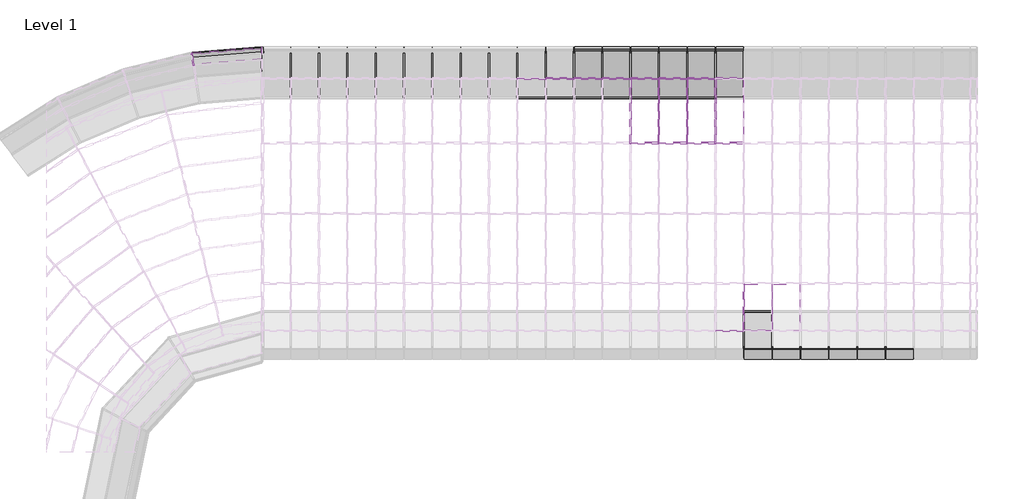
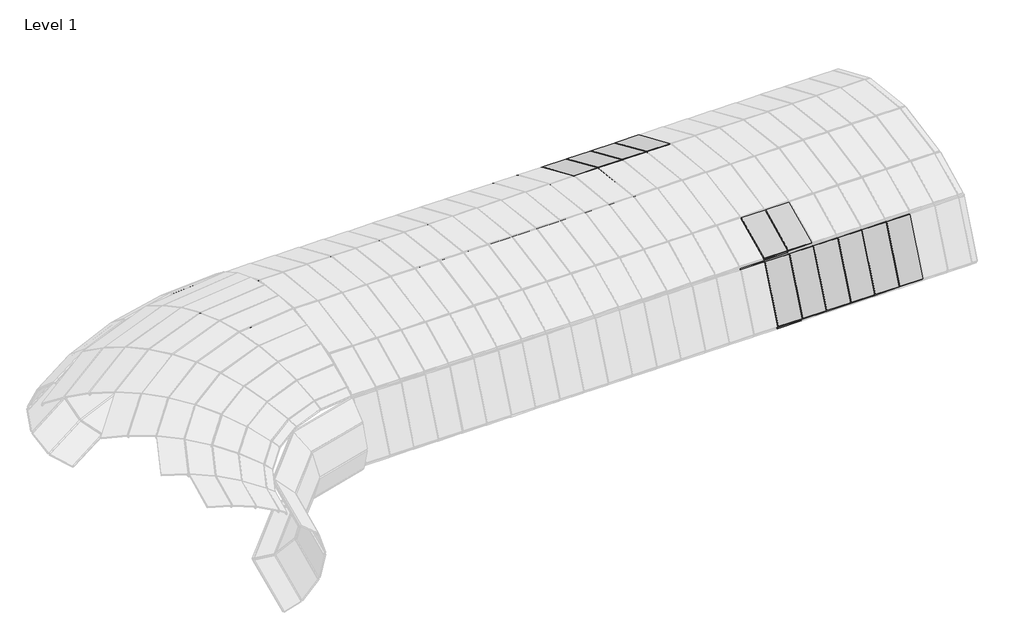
# One storey, part 20 of 23: 91 members, 27 plates.
"""IFC4 building model written with IfcOpenShell, lengths in millimetres."""

from ifc_helpers import new_model, si_unit, origin, place, context, project, spatial, transform, mapped, element, save
from components import member_391bee44, member_11ccf896, member_a479caf8, member_a09e3960, member_0f8f75f6, member_68981e21, member_3e1f1dd8, member_42213d33, member_14e241b9, member_67cfadff, member_9fdc8c74, system_panel_glazed_ce80fa85, system_panel_glazed_c7397732, system_panel_glazed_36155e08, system_panel_glazed_4484050c, system_panel_glazed_a8ce3bc7

model = new_model("IFC4")

# Units and contexts
model_context = context("Model", 3, world=origin())
ifc_project = project(units=[si_unit("LENGTHUNIT", "METRE", prefix="MILLI")], contexts=[model_context])

# Site, building, storey
site = spatial("IfcSite", under=ifc_project)
building = spatial("IfcBuilding", under=site)
storey = spatial("IfcBuildingStorey", under=building, Name="Level 1", Elevation=0.0)

# Members
placement = place(None, origin())
member_shape = member_391bee44(model_context)
element("IfcMember", 1, ObjectType="Rectangular Mullion : 1\" Square", at=placement, inside=storey, context=model_context, shape_type="MappedRepresentation", body=[
    mapped(member_shape, transform((-11434.107718, 8067.4639741, 1232.5089476), x_axis=(-0.9871948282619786, -0.15951918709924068, 0.0), y_axis=(-0.14578933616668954, 0.9022267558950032, 0.40587233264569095), z_axis=(-0.0647444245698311, 0.4006750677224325, -0.9139297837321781))),
])
member_2_shape = member_11ccf896(model_context)
element("IfcMember", 2, ObjectType="Rectangular Mullion : 1\" Square", at=placement, inside=storey, context=model_context, shape_type="MappedRepresentation", body=[
    mapped(member_2_shape, transform((-11421.4484397, 8068.4801793, 1232.5089476), x_axis=(0.01071900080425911, -0.13353091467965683, 0.9909866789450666), y_axis=(-0.07929494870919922, 0.9878091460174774, 0.1339604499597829), z_axis=(-0.9967935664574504, -0.08001616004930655, 0.0))),
])
member_3_shape = member_a479caf8(model_context)
element("IfcMember", 3, ObjectType="Rectangular Mullion : 1\" Square", at=placement, inside=storey, context=model_context, shape_type="MappedRepresentation", body=[
    mapped(member_3_shape, transform((-9912.9499814, 8098.3092895, 629.7792003), x_axis=(0.9981790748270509, 0.0454093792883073, -0.03970545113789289), y_axis=(-0.060320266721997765, 0.7514338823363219, -0.6570453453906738), z_axis=(0.0, 0.6582439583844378, 0.7528046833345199))),
])
member_4_shape = member_a09e3960(model_context)
element("IfcMember", 4, ObjectType="Rectangular Mullion : 1\" Square", at=placement, inside=storey, context=model_context, shape_type="MappedRepresentation", body=[
    mapped(member_4_shape, transform((-9912.9499814, 8189.5727086, 1232.5089476), x_axis=(0.9968650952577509, 0.07822835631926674, -0.011845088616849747), y_axis=(-0.07912004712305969, 0.9856303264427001, -0.14924100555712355), z_axis=(0.0, 0.14971033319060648, 0.9887299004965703))),
])
member_5_shape = member_0f8f75f6(model_context)
element("IfcMember", 5, ObjectType="Rectangular Mullion : 1\" Square", at=placement, inside=storey, context=model_context, shape_type="MappedRepresentation", body=[
    mapped(member_5_shape, transform((450.2500186, 2518.7804857, 14.1400027), x_axis=(0.9999999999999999, 0.0, 0.0), y_axis=(0.0, -0.5566930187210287, -0.8307182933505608), z_axis=(0.0, 0.8307182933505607, -0.5566930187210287))),
])
member_6_shape = member_68981e21(model_context)
element("IfcMember", 6, ObjectType="Rectangular Mullion : 1\" Square", at=placement, inside=storey, context=model_context, shape_type="MappedRepresentation", body=[
    mapped(member_6_shape, transform((450.2500186, 2539.8807303, 0.0), x_axis=(0.0, 0.8307182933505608, -0.5566930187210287), y_axis=(0.0, -0.5566930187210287, -0.8307182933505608), z_axis=(-1.0, 0.0, 0.0))),
])
element("IfcMember", 7, ObjectType="Rectangular Mullion : 1\" Square", at=placement, inside=storey, context=model_context, shape_type="MappedRepresentation", body=[
    mapped(member_6_shape, transform((-3207.3499814, 7543.2525753, 2085.6089632), x_axis=(0.0, 0.9167487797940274, -0.39946423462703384), y_axis=(0.0, 0.39946423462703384, 0.9167487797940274), z_axis=(1.0, 0.0, 0.0))),
])
element("IfcMember", 8, ObjectType="Rectangular Mullion : 1\" Square", at=placement, inside=storey, context=model_context, shape_type="MappedRepresentation", body=[
    mapped(member_6_shape, transform((-2597.7499814, 7543.2525753, 2085.6089632), x_axis=(0.0, 0.9167487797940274, -0.39946423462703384), y_axis=(0.0, 0.39946423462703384, 0.9167487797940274), z_axis=(1.0, 0.0, 0.0))),
])
element("IfcMember", 9, ObjectType="Rectangular Mullion : 1\" Square", at=placement, inside=storey, context=model_context, shape_type="MappedRepresentation", body=[
    mapped(member_6_shape, transform((-1988.1499814, 7543.2525753, 2085.6089632), x_axis=(0.0, 0.9167487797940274, -0.39946423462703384), y_axis=(0.0, 0.39946423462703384, 0.9167487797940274), z_axis=(1.0, 0.0, 0.0))),
])
element("IfcMember", 10, ObjectType="Rectangular Mullion : 1\" Square", at=placement, inside=storey, context=model_context, shape_type="MappedRepresentation", body=[
    mapped(member_6_shape, transform((-1378.5499814, 7543.2525753, 2085.6089632), x_axis=(0.0, 0.9167487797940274, -0.39946423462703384), y_axis=(0.0, 0.39946423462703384, 0.9167487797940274), z_axis=(1.0, 0.0, 0.0))),
])
element("IfcMember", 11, ObjectType="Rectangular Mullion : 1\" Square", at=placement, inside=storey, context=model_context, shape_type="MappedRepresentation", body=[
    mapped(member_6_shape, transform((-768.9499814, 7543.2525753, 2085.6089632), x_axis=(0.0, 0.9167487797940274, -0.39946423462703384), y_axis=(0.0, 0.39946423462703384, 0.9167487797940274), z_axis=(1.0, 0.0, 0.0))),
])
element("IfcMember", 12, ObjectType="Rectangular Mullion : 1\" Square", at=placement, inside=storey, context=model_context, shape_type="MappedRepresentation", body=[
    mapped(member_6_shape, transform((-159.3499814, 7543.2525753, 2085.6089632), x_axis=(0.0, 0.9167487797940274, -0.39946423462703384), y_axis=(0.0, 0.39946423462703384, 0.9167487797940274), z_axis=(1.0, 0.0, 0.0))),
])
element("IfcMember", 13, ObjectType="Rectangular Mullion : 1\" Square", at=placement, inside=storey, context=model_context, shape_type="MappedRepresentation", body=[
    mapped(member_6_shape, transform((450.2500186, 2108.5088854, 2085.6089632), x_axis=(0.0, -0.9009025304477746, -0.4340214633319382), y_axis=(0.0, -0.4340214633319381, 0.9009025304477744), z_axis=(-1.0, 0.0, 0.0))),
])
element("IfcMember", 14, ObjectType="Rectangular Mullion : 1\" Square", at=placement, inside=storey, context=model_context, shape_type="MappedRepresentation", body=[
    mapped(member_6_shape, transform((-3816.9499814, 7543.2525753, 2085.6089632), x_axis=(0.0, 0.9167487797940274, -0.3994642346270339), y_axis=(0.0, 0.3994642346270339, 0.9167487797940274), z_axis=(1.0, 0.0, 0.0))),
])
element("IfcMember", 15, ObjectType="Rectangular Mullion : 1\" Square", at=placement, inside=storey, context=model_context, shape_type="MappedRepresentation", body=[
    mapped(member_6_shape, transform((-1378.5499814, 7111.8807303, 0.0), x_axis=(0.0, -0.713412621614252, -0.7007441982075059), y_axis=(0.0, 0.7007441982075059, -0.713412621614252), z_axis=(1.0, 0.0, 0.0))),
])
element("IfcMember", 16, ObjectType="Rectangular Mullion : 1\" Square", at=placement, inside=storey, context=model_context, shape_type="MappedRepresentation", body=[
    mapped(member_6_shape, transform((-768.9499814, 7111.8807303, 0.0), x_axis=(0.0, -0.713412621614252, -0.7007441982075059), y_axis=(0.0, 0.7007441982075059, -0.713412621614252), z_axis=(1.0, 0.0, 0.0))),
])
element("IfcMember", 17, ObjectType="Rectangular Mullion : 1\" Square", at=placement, inside=storey, context=model_context, shape_type="MappedRepresentation", body=[
    mapped(member_6_shape, transform((-159.3499814, 7111.8807303, 0.0), x_axis=(0.0, -0.713412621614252, -0.7007441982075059), y_axis=(0.0, 0.7007441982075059, -0.713412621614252), z_axis=(1.0, 0.0, 0.0))),
])
element("IfcMember", 18, ObjectType="Rectangular Mullion : 1\" Square", at=placement, inside=storey, context=model_context, shape_type="MappedRepresentation", body=[
    mapped(member_6_shape, transform((-3816.9499814, 7111.8807303, 0.0), x_axis=(0.0, -0.7134126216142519, -0.700744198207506), y_axis=(0.0, 0.700744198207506, -0.7134126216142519), z_axis=(1.0, 0.0, 0.0))),
])
element("IfcMember", 19, ObjectType="Rectangular Mullion : 1\" Square", at=placement, inside=storey, context=model_context, shape_type="MappedRepresentation", body=[
    mapped(member_6_shape, transform((-3207.3499814, 7111.8807303, 0.0), x_axis=(0.0, -0.713412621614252, -0.7007441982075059), y_axis=(0.0, 0.7007441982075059, -0.713412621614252), z_axis=(1.0, 0.0, 0.0))),
])
element("IfcMember", 20, ObjectType="Rectangular Mullion : 1\" Square", at=placement, inside=storey, context=model_context, shape_type="MappedRepresentation", body=[
    mapped(member_6_shape, transform((-2597.7499814, 7111.8807303, 0.0), x_axis=(0.0, -0.713412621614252, -0.7007441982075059), y_axis=(0.0, 0.7007441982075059, -0.713412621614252), z_axis=(1.0, 0.0, 0.0))),
])
element("IfcMember", 21, ObjectType="Rectangular Mullion : 1\" Square", at=placement, inside=storey, context=model_context, shape_type="MappedRepresentation", body=[
    mapped(member_6_shape, transform((-1988.1499814, 7111.8807303, 0.0), x_axis=(0.0, -0.713412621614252, -0.7007441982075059), y_axis=(0.0, 0.7007441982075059, -0.713412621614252), z_axis=(1.0, 0.0, 0.0))),
])
member_7_shape = member_3e1f1dd8(model_context)
element("IfcMember", 22, ObjectType="Rectangular Mullion : 1\" Square", at=placement, inside=storey, context=model_context, shape_type="MappedRepresentation", body=[
    mapped(member_7_shape, transform((450.2500186, 1534.1192339, 673.9955146), x_axis=(0.0, 0.38018576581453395, -0.9249101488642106), y_axis=(0.0, -0.9249101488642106, -0.38018576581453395), z_axis=(-1.0, 0.0, 0.0))),
])
element("IfcMember", 23, ObjectType="Rectangular Mullion : 1\" Square", at=placement, inside=storey, context=model_context, shape_type="MappedRepresentation", body=[
    mapped(member_7_shape, transform((1059.8500186, 1534.1192339, 673.9955146), x_axis=(0.0, 0.38018576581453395, -0.9249101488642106), y_axis=(0.0, -0.9249101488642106, -0.38018576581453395), z_axis=(-1.0, 0.0, 0.0))),
])
element("IfcMember", 24, ObjectType="Rectangular Mullion : 1\" Square", at=placement, inside=storey, context=model_context, shape_type="MappedRepresentation", body=[
    mapped(member_7_shape, transform((1669.4500186, 1534.1192339, 673.9955146), x_axis=(0.0, 0.38018576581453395, -0.9249101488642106), y_axis=(0.0, -0.9249101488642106, -0.38018576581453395), z_axis=(-1.0, 0.0, 0.0))),
])
element("IfcMember", 25, ObjectType="Rectangular Mullion : 1\" Square", at=placement, inside=storey, context=model_context, shape_type="MappedRepresentation", body=[
    mapped(member_7_shape, transform((2279.0500186, 1534.1192339, 673.9955146), x_axis=(0.0, 0.38018576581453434, -0.9249101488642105), y_axis=(0.0, -0.9249101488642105, -0.38018576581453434), z_axis=(-1.0, 0.0, 0.0))),
])
element("IfcMember", 26, ObjectType="Rectangular Mullion : 1\" Square", at=placement, inside=storey, context=model_context, shape_type="MappedRepresentation", body=[
    mapped(member_7_shape, transform((2888.6500186, 1534.1192339, 673.9955146), x_axis=(0.0, 0.38018576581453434, -0.9249101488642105), y_axis=(0.0, -0.9249101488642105, -0.38018576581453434), z_axis=(-1.0, 0.0, 0.0))),
])
element("IfcMember", 27, ObjectType="Rectangular Mullion : 1\" Square", at=placement, inside=storey, context=model_context, shape_type="MappedRepresentation", body=[
    mapped(member_7_shape, transform((3498.2500186, 1534.1192339, 673.9955146), x_axis=(0.0, 0.38018576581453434, -0.9249101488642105), y_axis=(0.0, -0.9249101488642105, -0.38018576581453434), z_axis=(-1.0, 0.0, 0.0))),
])
member_8_shape = member_42213d33(model_context)
element("IfcMember", 28, ObjectType="Rectangular Mullion : 1\" Square", at=placement, inside=storey, context=model_context, shape_type="MappedRepresentation", body=[
    mapped(member_8_shape, transform((450.2500186, 1538.9058143, 685.75896), x_axis=(0.9999999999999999, 0.0, 0.0), y_axis=(0.0, -0.9262555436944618, 0.37689609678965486), z_axis=(0.0, -0.3768960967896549, -0.926255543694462))),
])
element("IfcMember", 29, ObjectType="Rectangular Mullion : 1\" Square", at=placement, inside=storey, context=model_context, shape_type="MappedRepresentation", body=[
    mapped(member_8_shape, transform((1059.8500186, 1538.9058143, 685.75896), x_axis=(0.9999999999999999, 0.0, 0.0), y_axis=(0.0, -0.9262555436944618, 0.37689609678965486), z_axis=(0.0, -0.3768960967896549, -0.926255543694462))),
])
element("IfcMember", 30, ObjectType="Rectangular Mullion : 1\" Square", at=placement, inside=storey, context=model_context, shape_type="MappedRepresentation", body=[
    mapped(member_8_shape, transform((1669.4500186, 1538.9058143, 685.75896), x_axis=(0.9999999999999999, 0.0, 0.0), y_axis=(0.0, -0.9262555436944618, 0.37689609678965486), z_axis=(0.0, -0.3768960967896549, -0.926255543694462))),
])
element("IfcMember", 31, ObjectType="Rectangular Mullion : 1\" Square", at=placement, inside=storey, context=model_context, shape_type="MappedRepresentation", body=[
    mapped(member_8_shape, transform((2279.0500186, 1538.9058143, 685.75896), x_axis=(1.0, 0.0, 0.0), y_axis=(0.0, -0.9262555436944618, 0.37689609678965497), z_axis=(0.0, -0.37689609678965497, -0.9262555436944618))),
])
element("IfcMember", 32, ObjectType="Rectangular Mullion : 1\" Square", at=placement, inside=storey, context=model_context, shape_type="MappedRepresentation", body=[
    mapped(member_8_shape, transform((2888.6500186, 1538.9058143, 685.75896), x_axis=(1.0, 0.0, 0.0), y_axis=(0.0, -0.9262555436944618, 0.37689609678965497), z_axis=(0.0, -0.37689609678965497, -0.9262555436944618))),
])
element("IfcMember", 33, ObjectType="Rectangular Mullion : 1\" Square", at=placement, inside=storey, context=model_context, shape_type="MappedRepresentation", body=[
    mapped(member_8_shape, transform((3498.2500186, 1538.9058143, 685.75896), x_axis=(1.0, 0.0, 0.0), y_axis=(0.0, -0.9262555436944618, 0.37689609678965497), z_axis=(0.0, -0.37689609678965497, -0.9262555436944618))),
])
element("IfcMember", 34, ObjectType="Rectangular Mullion : 1\" Square", at=placement, inside=storey, context=model_context, shape_type="MappedRepresentation", body=[
    mapped(member_6_shape, transform((450.2500186, 2108.5088854, 2085.6089632), x_axis=(0.0, 0.37689609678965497, 0.9262555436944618), y_axis=(0.0, -0.9262555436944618, 0.37689609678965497), z_axis=(1.0, 0.0, 0.0))),
])
element("IfcMember", 35, ObjectType="Rectangular Mullion : 1\" Square", at=placement, inside=storey, context=model_context, shape_type="MappedRepresentation", body=[
    mapped(member_6_shape, transform((-3816.9499814, 7543.2525753, 2085.6089632), x_axis=(0.0, -0.5417212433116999, 0.8405582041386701), y_axis=(0.0, 0.8405582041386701, 0.5417212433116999), z_axis=(-1.0, 0.0, 0.0))),
])
element("IfcMember", 36, ObjectType="Rectangular Mullion : 1\" Square", at=placement, inside=storey, context=model_context, shape_type="MappedRepresentation", body=[
    mapped(member_6_shape, transform((-3207.3499814, 7543.2525753, 2085.6089632), x_axis=(0.0, -0.5417212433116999, 0.8405582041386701), y_axis=(0.0, 0.8405582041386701, 0.5417212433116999), z_axis=(-1.0, 0.0, 0.0))),
])
element("IfcMember", 37, ObjectType="Rectangular Mullion : 1\" Square", at=placement, inside=storey, context=model_context, shape_type="MappedRepresentation", body=[
    mapped(member_6_shape, transform((-2597.7499814, 7543.2525753, 2085.6089632), x_axis=(0.0, -0.5417212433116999, 0.8405582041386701), y_axis=(0.0, 0.8405582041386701, 0.5417212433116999), z_axis=(-1.0, 0.0, 0.0))),
])
element("IfcMember", 38, ObjectType="Rectangular Mullion : 1\" Square", at=placement, inside=storey, context=model_context, shape_type="MappedRepresentation", body=[
    mapped(member_6_shape, transform((-1988.1499814, 7543.2525753, 2085.6089632), x_axis=(0.0, -0.5417212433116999, 0.8405582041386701), y_axis=(0.0, 0.8405582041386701, 0.5417212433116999), z_axis=(-1.0, 0.0, 0.0))),
])
element("IfcMember", 39, ObjectType="Rectangular Mullion : 1\" Square", at=placement, inside=storey, context=model_context, shape_type="MappedRepresentation", body=[
    mapped(member_6_shape, transform((-1378.5499814, 7543.2525753, 2085.6089632), x_axis=(0.0, -0.5417212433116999, 0.8405582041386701), y_axis=(0.0, 0.8405582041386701, 0.5417212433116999), z_axis=(-1.0, 0.0, 0.0))),
])
element("IfcMember", 40, ObjectType="Rectangular Mullion : 1\" Square", at=placement, inside=storey, context=model_context, shape_type="MappedRepresentation", body=[
    mapped(member_6_shape, transform((-768.9499814, 7543.2525753, 2085.6089632), x_axis=(0.0, -0.5417212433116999, 0.8405582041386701), y_axis=(0.0, 0.8405582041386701, 0.5417212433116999), z_axis=(-1.0, 0.0, 0.0))),
])
element("IfcMember", 41, ObjectType="Rectangular Mullion : 1\" Square", at=placement, inside=storey, context=model_context, shape_type="MappedRepresentation", body=[
    mapped(member_6_shape, transform((-159.3499814, 7543.2525753, 2085.6089632), x_axis=(0.0, -0.5417212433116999, 0.8405582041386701), y_axis=(0.0, 0.8405582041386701, 0.5417212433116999), z_axis=(-1.0, 0.0, 0.0))),
])
element("IfcMember", 42, ObjectType="Rectangular Mullion : 1\" Square", at=placement, inside=storey, context=model_context, shape_type="MappedRepresentation", body=[
    mapped(member_7_shape, transform((-1988.1499814, 6146.1274349, 2694.3924567), x_axis=(0.0, -0.9660596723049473, 0.25831900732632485), y_axis=(0.0, 0.25831900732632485, 0.9660596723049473), z_axis=(-1.0, 0.0, 0.0))),
])
element("IfcMember", 43, ObjectType="Rectangular Mullion : 1\" Square", at=placement, inside=storey, context=model_context, shape_type="MappedRepresentation", body=[
    mapped(member_7_shape, transform((-1378.5499814, 6146.1274349, 2694.3924567), x_axis=(0.0, -0.9660596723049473, 0.25831900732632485), y_axis=(0.0, 0.25831900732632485, 0.9660596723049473), z_axis=(-1.0, 0.0, 0.0))),
])
element("IfcMember", 44, ObjectType="Rectangular Mullion : 1\" Square", at=placement, inside=storey, context=model_context, shape_type="MappedRepresentation", body=[
    mapped(member_7_shape, transform((-768.9499814, 6146.1274349, 2694.3924567), x_axis=(0.0, -0.9660596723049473, 0.25831900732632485), y_axis=(0.0, 0.25831900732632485, 0.9660596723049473), z_axis=(-1.0, 0.0, 0.0))),
])
element("IfcMember", 45, ObjectType="Rectangular Mullion : 1\" Square", at=placement, inside=storey, context=model_context, shape_type="MappedRepresentation", body=[
    mapped(member_7_shape, transform((-159.3499814, 6146.1274349, 2694.3924567), x_axis=(0.0, -0.9660596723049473, 0.25831900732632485), y_axis=(0.0, 0.25831900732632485, 0.9660596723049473), z_axis=(-1.0, 0.0, 0.0))),
])
element("IfcMember", 46, ObjectType="Rectangular Mullion : 1\" Square", at=placement, inside=storey, context=model_context, shape_type="MappedRepresentation", body=[
    mapped(member_7_shape, transform((-9303.3499814, 8199.1215657, 1067.9341581), x_axis=(0.0, 0.017915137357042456, 0.9998395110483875), y_axis=(0.0, 0.9998395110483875, -0.017915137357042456), z_axis=(-1.0, 0.0, 0.0))),
])
element("IfcMember", 47, ObjectType="Rectangular Mullion : 1\" Square", at=placement, inside=storey, context=model_context, shape_type="MappedRepresentation", body=[
    mapped(member_7_shape, transform((-8693.7499814, 8199.1215657, 1067.9341581), x_axis=(0.0, 0.017915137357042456, 0.9998395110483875), y_axis=(0.0, 0.9998395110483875, -0.017915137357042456), z_axis=(-1.0, 0.0, 0.0))),
])
element("IfcMember", 48, ObjectType="Rectangular Mullion : 1\" Square", at=placement, inside=storey, context=model_context, shape_type="MappedRepresentation", body=[
    mapped(member_7_shape, transform((-8084.1499814, 8199.1215657, 1067.9341581), x_axis=(0.0, 0.017915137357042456, 0.9998395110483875), y_axis=(0.0, 0.9998395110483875, -0.017915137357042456), z_axis=(-1.0, 0.0, 0.0))),
])
element("IfcMember", 49, ObjectType="Rectangular Mullion : 1\" Square", at=placement, inside=storey, context=model_context, shape_type="MappedRepresentation", body=[
    mapped(member_7_shape, transform((-7474.5499814, 8199.1215657, 1067.9341581), x_axis=(0.0, 0.017915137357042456, 0.9998395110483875), y_axis=(0.0, 0.9998395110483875, -0.017915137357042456), z_axis=(-1.0, 0.0, 0.0))),
])
element("IfcMember", 50, ObjectType="Rectangular Mullion : 1\" Square", at=placement, inside=storey, context=model_context, shape_type="MappedRepresentation", body=[
    mapped(member_7_shape, transform((-6864.9499814, 8199.1215657, 1067.9341581), x_axis=(0.0, 0.017915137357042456, 0.9998395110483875), y_axis=(0.0, 0.9998395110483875, -0.017915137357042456), z_axis=(-1.0, 0.0, 0.0))),
])
element("IfcMember", 51, ObjectType="Rectangular Mullion : 1\" Square", at=placement, inside=storey, context=model_context, shape_type="MappedRepresentation", body=[
    mapped(member_7_shape, transform((-6255.3499814, 8199.1215657, 1067.9341581), x_axis=(0.0, 0.017915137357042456, 0.9998395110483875), y_axis=(0.0, 0.9998395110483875, -0.017915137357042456), z_axis=(-1.0, 0.0, 0.0))),
])
element("IfcMember", 52, ObjectType="Rectangular Mullion : 1\" Square", at=placement, inside=storey, context=model_context, shape_type="MappedRepresentation", body=[
    mapped(member_7_shape, transform((-5645.7499814, 8199.1215657, 1067.9341581), x_axis=(0.0, 0.017915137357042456, 0.9998395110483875), y_axis=(0.0, 0.9998395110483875, -0.017915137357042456), z_axis=(-1.0, 0.0, 0.0))),
])
element("IfcMember", 53, ObjectType="Rectangular Mullion : 1\" Square", at=placement, inside=storey, context=model_context, shape_type="MappedRepresentation", body=[
    mapped(member_7_shape, transform((-5036.1499814, 8199.1215657, 1067.9341581), x_axis=(0.0, 0.017915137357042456, 0.9998395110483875), y_axis=(0.0, 0.9998395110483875, -0.017915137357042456), z_axis=(-1.0, 0.0, 0.0))),
])
element("IfcMember", 54, ObjectType="Rectangular Mullion : 1\" Square", at=placement, inside=storey, context=model_context, shape_type="MappedRepresentation", body=[
    mapped(member_7_shape, transform((-4426.5499814, 8199.1215657, 1067.9341581), x_axis=(0.0, 0.017915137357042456, 0.9998395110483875), y_axis=(0.0, 0.9998395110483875, -0.017915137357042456), z_axis=(-1.0, 0.0, 0.0))),
])
element("IfcMember", 55, ObjectType="Rectangular Mullion : 1\" Square", at=placement, inside=storey, context=model_context, shape_type="MappedRepresentation", body=[
    mapped(member_7_shape, transform((-3816.9499814, 8199.1215657, 1067.9341581), x_axis=(0.0, 0.017915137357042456, 0.9998395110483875), y_axis=(0.0, 0.9998395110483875, -0.017915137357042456), z_axis=(-1.0, 0.0, 0.0))),
])
element("IfcMember", 56, ObjectType="Rectangular Mullion : 1\" Square", at=placement, inside=storey, context=model_context, shape_type="MappedRepresentation", body=[
    mapped(member_7_shape, transform((-3207.3499814, 8199.1215657, 1067.9341581), x_axis=(0.0, 0.017915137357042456, 0.9998395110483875), y_axis=(0.0, 0.9998395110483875, -0.017915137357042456), z_axis=(-1.0, 0.0, 0.0))),
])
element("IfcMember", 57, ObjectType="Rectangular Mullion : 1\" Square", at=placement, inside=storey, context=model_context, shape_type="MappedRepresentation", body=[
    mapped(member_7_shape, transform((-2597.7499814, 8199.1215657, 1067.9341581), x_axis=(0.0, 0.017915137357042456, 0.9998395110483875), y_axis=(0.0, 0.9998395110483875, -0.017915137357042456), z_axis=(-1.0, 0.0, 0.0))),
])
element("IfcMember", 58, ObjectType="Rectangular Mullion : 1\" Square", at=placement, inside=storey, context=model_context, shape_type="MappedRepresentation", body=[
    mapped(member_7_shape, transform((-1988.1499814, 8199.1215657, 1067.9341581), x_axis=(0.0, 0.017915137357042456, 0.9998395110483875), y_axis=(0.0, 0.9998395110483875, -0.017915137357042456), z_axis=(-1.0, 0.0, 0.0))),
])
element("IfcMember", 59, ObjectType="Rectangular Mullion : 1\" Square", at=placement, inside=storey, context=model_context, shape_type="MappedRepresentation", body=[
    mapped(member_7_shape, transform((-1378.5499814, 8199.1215657, 1067.9341581), x_axis=(0.0, 0.017915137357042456, 0.9998395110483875), y_axis=(0.0, 0.9998395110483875, -0.017915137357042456), z_axis=(-1.0, 0.0, 0.0))),
])
element("IfcMember", 60, ObjectType="Rectangular Mullion : 1\" Square", at=placement, inside=storey, context=model_context, shape_type="MappedRepresentation", body=[
    mapped(member_7_shape, transform((-768.9499814, 8199.1215657, 1067.9341581), x_axis=(0.0, 0.017915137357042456, 0.9998395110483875), y_axis=(0.0, 0.9998395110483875, -0.017915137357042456), z_axis=(-1.0, 0.0, 0.0))),
])
element("IfcMember", 61, ObjectType="Rectangular Mullion : 1\" Square", at=placement, inside=storey, context=model_context, shape_type="MappedRepresentation", body=[
    mapped(member_7_shape, transform((-159.3499814, 8199.1215657, 1067.9341581), x_axis=(0.0, 0.017915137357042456, 0.9998395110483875), y_axis=(0.0, 0.9998395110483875, -0.017915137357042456), z_axis=(-1.0, 0.0, 0.0))),
])
member_9_shape = member_14e241b9(model_context)
element("IfcMember", 62, ObjectType="Rectangular Mullion : 1\" Square", at=placement, inside=storey, context=model_context, shape_type="MappedRepresentation", body=[
    mapped(member_9_shape, transform((450.2500186, 2131.3918096, 2096.6331083), x_axis=(1.0, 0.0, 0.0), y_axis=(0.0, -0.4340214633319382, 0.9009025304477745), z_axis=(0.0, -0.9009025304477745, -0.4340214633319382))),
])
member_10_shape = member_67cfadff(model_context)
element("IfcMember", 63, ObjectType="Rectangular Mullion : 1\" Square", at=placement, inside=storey, context=model_context, shape_type="MappedRepresentation", body=[
    mapped(member_10_shape, transform((-1988.1499814, 6157.7701444, 2689.3192609), x_axis=(0.9999999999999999, 0.0, 0.0), y_axis=(0.0, 0.39946423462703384, 0.9167487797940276), z_axis=(0.0, -0.9167487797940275, 0.3994642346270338))),
])
element("IfcMember", 64, ObjectType="Rectangular Mullion : 1\" Square", at=placement, inside=storey, context=model_context, shape_type="MappedRepresentation", body=[
    mapped(member_10_shape, transform((-1378.5499814, 6157.7701444, 2689.3192609), x_axis=(0.9999999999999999, 0.0, 0.0), y_axis=(0.0, 0.39946423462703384, 0.9167487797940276), z_axis=(0.0, -0.9167487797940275, 0.3994642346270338))),
])
element("IfcMember", 65, ObjectType="Rectangular Mullion : 1\" Square", at=placement, inside=storey, context=model_context, shape_type="MappedRepresentation", body=[
    mapped(member_10_shape, transform((-768.9499814, 6157.7701444, 2689.3192609), x_axis=(0.9999999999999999, 0.0, 0.0), y_axis=(0.0, 0.39946423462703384, 0.9167487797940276), z_axis=(0.0, -0.9167487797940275, 0.3994642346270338))),
])
element("IfcMember", 66, ObjectType="Rectangular Mullion : 1\" Square", at=placement, inside=storey, context=model_context, shape_type="MappedRepresentation", body=[
    mapped(member_10_shape, transform((-159.3499814, 6157.7701444, 2689.3192609), x_axis=(0.9999999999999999, 0.0, 0.0), y_axis=(0.0, 0.39946423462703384, 0.9167487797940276), z_axis=(0.0, -0.9167487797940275, 0.3994642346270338))),
])
element("IfcMember", 67, ObjectType="Rectangular Mullion : 1\" Square", at=placement, inside=storey, context=model_context, shape_type="MappedRepresentation", body=[
    mapped(member_7_shape, transform((-9912.9499814, 8199.1215657, 1067.9341581), x_axis=(0.0, 0.017915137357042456, 0.9998395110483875), y_axis=(0.0, 0.9998395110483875, -0.017915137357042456), z_axis=(-1.0, 0.0, 0.0))),
])
element("IfcMember", 68, ObjectType="Rectangular Mullion : 1\" Square", at=placement, inside=storey, context=model_context, shape_type="MappedRepresentation", body=[
    mapped(member_8_shape, transform((-3207.3499814, 8190.0612254, 1059.0347068), x_axis=(1.0, 0.0, 0.0), y_axis=(0.0, 0.7007441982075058, -0.713412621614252), z_axis=(0.0, 0.713412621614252, 0.7007441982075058))),
])
element("IfcMember", 69, ObjectType="Rectangular Mullion : 1\" Square", at=placement, inside=storey, context=model_context, shape_type="MappedRepresentation", body=[
    mapped(member_8_shape, transform((-2597.7499814, 8190.0612254, 1059.0347068), x_axis=(1.0, 0.0, 0.0), y_axis=(0.0, 0.7007441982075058, -0.713412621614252), z_axis=(0.0, 0.713412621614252, 0.7007441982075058))),
])
element("IfcMember", 70, ObjectType="Rectangular Mullion : 1\" Square", at=placement, inside=storey, context=model_context, shape_type="MappedRepresentation", body=[
    mapped(member_8_shape, transform((-1988.1499814, 8190.0612254, 1059.0347068), x_axis=(1.0, 0.0, 0.0), y_axis=(0.0, 0.7007441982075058, -0.713412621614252), z_axis=(0.0, 0.713412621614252, 0.7007441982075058))),
])
element("IfcMember", 71, ObjectType="Rectangular Mullion : 1\" Square", at=placement, inside=storey, context=model_context, shape_type="MappedRepresentation", body=[
    mapped(member_8_shape, transform((-1378.5499814, 8190.0612254, 1059.0347068), x_axis=(1.0, 0.0, 0.0), y_axis=(0.0, 0.7007441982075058, -0.713412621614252), z_axis=(0.0, 0.713412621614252, 0.7007441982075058))),
])
element("IfcMember", 72, ObjectType="Rectangular Mullion : 1\" Square", at=placement, inside=storey, context=model_context, shape_type="MappedRepresentation", body=[
    mapped(member_8_shape, transform((-768.9499814, 8190.0612254, 1059.0347068), x_axis=(1.0, 0.0, 0.0), y_axis=(0.0, 0.7007441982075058, -0.713412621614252), z_axis=(0.0, 0.713412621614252, 0.7007441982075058))),
])
element("IfcMember", 73, ObjectType="Rectangular Mullion : 1\" Square", at=placement, inside=storey, context=model_context, shape_type="MappedRepresentation", body=[
    mapped(member_8_shape, transform((-159.3499814, 8190.0612254, 1059.0347068), x_axis=(1.0, 0.0, 0.0), y_axis=(0.0, 0.7007441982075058, -0.713412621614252), z_axis=(0.0, 0.713412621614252, 0.7007441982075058))),
])
element("IfcMember", 74, ObjectType="Rectangular Mullion : 1\" Square", at=placement, inside=storey, context=model_context, shape_type="MappedRepresentation", body=[
    mapped(member_8_shape, transform((-6255.3499814, 8190.0612254, 1059.0347068), x_axis=(1.0, 0.0, 0.0), y_axis=(0.0, 0.7007441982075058, -0.713412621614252), z_axis=(0.0, 0.713412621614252, 0.7007441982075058))),
])
element("IfcMember", 75, ObjectType="Rectangular Mullion : 1\" Square", at=placement, inside=storey, context=model_context, shape_type="MappedRepresentation", body=[
    mapped(member_8_shape, transform((-6864.9499814, 8190.0612254, 1059.0347068), x_axis=(1.0, 0.0, 0.0), y_axis=(0.0, 0.7007441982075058, -0.713412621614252), z_axis=(0.0, 0.713412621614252, 0.7007441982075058))),
])
element("IfcMember", 76, ObjectType="Rectangular Mullion : 1\" Square", at=placement, inside=storey, context=model_context, shape_type="MappedRepresentation", body=[
    mapped(member_8_shape, transform((-7474.5499814, 8190.0612254, 1059.0347068), x_axis=(1.0, 0.0, 0.0), y_axis=(0.0, 0.7007441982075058, -0.713412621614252), z_axis=(0.0, 0.713412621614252, 0.7007441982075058))),
])
element("IfcMember", 77, ObjectType="Rectangular Mullion : 1\" Square", at=placement, inside=storey, context=model_context, shape_type="MappedRepresentation", body=[
    mapped(member_8_shape, transform((-8084.1499814, 8190.0612254, 1059.0347068), x_axis=(1.0, 0.0, 0.0), y_axis=(0.0, 0.7007441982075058, -0.713412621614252), z_axis=(0.0, 0.713412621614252, 0.7007441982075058))),
])
element("IfcMember", 78, ObjectType="Rectangular Mullion : 1\" Square", at=placement, inside=storey, context=model_context, shape_type="MappedRepresentation", body=[
    mapped(member_8_shape, transform((-9303.3499814, 8190.0612254, 1059.0347068), x_axis=(1.0, 0.0, 0.0), y_axis=(0.0, 0.7007441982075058, -0.713412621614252), z_axis=(0.0, 0.713412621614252, 0.7007441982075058))),
])
element("IfcMember", 79, ObjectType="Rectangular Mullion : 1\" Square", at=placement, inside=storey, context=model_context, shape_type="MappedRepresentation", body=[
    mapped(member_8_shape, transform((-8693.7499814, 8190.0612254, 1059.0347068), x_axis=(1.0, 0.0, 0.0), y_axis=(0.0, 0.7007441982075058, -0.713412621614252), z_axis=(0.0, 0.713412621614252, 0.7007441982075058))),
])
element("IfcMember", 80, ObjectType="Rectangular Mullion : 1\" Square", at=placement, inside=storey, context=model_context, shape_type="MappedRepresentation", body=[
    mapped(member_8_shape, transform((-3816.9499814, 8190.0612254, 1059.0347068), x_axis=(1.0, 0.0, 0.0), y_axis=(0.0, 0.700744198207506, -0.7134126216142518), z_axis=(0.0, 0.7134126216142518, 0.700744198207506))),
])
element("IfcMember", 81, ObjectType="Rectangular Mullion : 1\" Square", at=placement, inside=storey, context=model_context, shape_type="MappedRepresentation", body=[
    mapped(member_8_shape, transform((-4426.5499814, 8190.0612254, 1059.0347068), x_axis=(1.0, 0.0, 0.0), y_axis=(0.0, 0.7007441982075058, -0.713412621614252), z_axis=(0.0, 0.713412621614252, 0.7007441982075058))),
])
element("IfcMember", 82, ObjectType="Rectangular Mullion : 1\" Square", at=placement, inside=storey, context=model_context, shape_type="MappedRepresentation", body=[
    mapped(member_8_shape, transform((-5036.1499814, 8190.0612254, 1059.0347068), x_axis=(1.0, 0.0, 0.0), y_axis=(0.0, 0.7007441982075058, -0.713412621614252), z_axis=(0.0, 0.713412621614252, 0.7007441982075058))),
])
element("IfcMember", 83, ObjectType="Rectangular Mullion : 1\" Square", at=placement, inside=storey, context=model_context, shape_type="MappedRepresentation", body=[
    mapped(member_8_shape, transform((-5645.7499814, 8190.0612254, 1059.0347068), x_axis=(1.0, 0.0, 0.0), y_axis=(0.0, 0.7007441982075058, -0.713412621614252), z_axis=(0.0, 0.713412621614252, 0.7007441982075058))),
])
element("IfcMember", 84, ObjectType="Rectangular Mullion : 1\" Square", at=placement, inside=storey, context=model_context, shape_type="MappedRepresentation", body=[
    mapped(member_5_shape, transform((-3207.3499814, 7557.0122949, 2064.2587848), x_axis=(0.9999999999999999, 0.0, 0.0), y_axis=(0.0, 0.8405582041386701, 0.5417212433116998), z_axis=(0.0, -0.5417212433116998, 0.84055820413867))),
])
element("IfcMember", 85, ObjectType="Rectangular Mullion : 1\" Square", at=placement, inside=storey, context=model_context, shape_type="MappedRepresentation", body=[
    mapped(member_5_shape, transform((-2597.7499814, 7557.0122949, 2064.2587848), x_axis=(0.9999999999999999, 0.0, 0.0), y_axis=(0.0, 0.8405582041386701, 0.5417212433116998), z_axis=(0.0, -0.5417212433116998, 0.84055820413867))),
])
element("IfcMember", 86, ObjectType="Rectangular Mullion : 1\" Square", at=placement, inside=storey, context=model_context, shape_type="MappedRepresentation", body=[
    mapped(member_5_shape, transform((-1988.1499814, 7557.0122949, 2064.2587848), x_axis=(0.9999999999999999, 0.0, 0.0), y_axis=(0.0, 0.8405582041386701, 0.5417212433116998), z_axis=(0.0, -0.5417212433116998, 0.84055820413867))),
])
element("IfcMember", 87, ObjectType="Rectangular Mullion : 1\" Square", at=placement, inside=storey, context=model_context, shape_type="MappedRepresentation", body=[
    mapped(member_5_shape, transform((-1378.5499814, 7557.0122949, 2064.2587848), x_axis=(0.9999999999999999, 0.0, 0.0), y_axis=(0.0, 0.8405582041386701, 0.5417212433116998), z_axis=(0.0, -0.5417212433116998, 0.84055820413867))),
])
element("IfcMember", 88, ObjectType="Rectangular Mullion : 1\" Square", at=placement, inside=storey, context=model_context, shape_type="MappedRepresentation", body=[
    mapped(member_5_shape, transform((-768.9499814, 7557.0122949, 2064.2587848), x_axis=(0.9999999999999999, 0.0, 0.0), y_axis=(0.0, 0.8405582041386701, 0.5417212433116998), z_axis=(0.0, -0.5417212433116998, 0.84055820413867))),
])
element("IfcMember", 89, ObjectType="Rectangular Mullion : 1\" Square", at=placement, inside=storey, context=model_context, shape_type="MappedRepresentation", body=[
    mapped(member_5_shape, transform((-159.3499814, 7557.0122949, 2064.2587848), x_axis=(0.9999999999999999, 0.0, 0.0), y_axis=(0.0, 0.8405582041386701, 0.5417212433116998), z_axis=(0.0, -0.5417212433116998, 0.84055820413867))),
])
element("IfcMember", 90, ObjectType="Rectangular Mullion : 1\" Square", at=placement, inside=storey, context=model_context, shape_type="MappedRepresentation", body=[
    mapped(member_5_shape, transform((-3816.9499814, 7557.0122949, 2064.2587848), x_axis=(1.0, 0.0, 0.0), y_axis=(0.0, 0.8405582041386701, 0.5417212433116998), z_axis=(0.0, -0.5417212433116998, 0.8405582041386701))),
])
member_11_shape = member_9fdc8c74(model_context)
element("IfcMember", 91, ObjectType="Rectangular Mullion : 1\" Square", at=placement, inside=storey, context=model_context, shape_type="MappedRepresentation", body=[
    mapped(member_11_shape, transform((-9912.9499814, 8192.2417059, 1078.6092473), x_axis=(-1.0, 0.0, 0.0), y_axis=(0.0, 0.8405582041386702, 0.5417212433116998), z_axis=(0.0, 0.5417212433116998, -0.8405582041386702))),
])

# Plates
system_panel_glazed_shape = system_panel_glazed_ce80fa85(model_context)
element("IfcPlate", 92, ObjectType="System Panel : Glazed", at=placement, inside=storey, context=model_context, shape_type="MappedRepresentation", body=[
    mapped(system_panel_glazed_shape, transform((-10672.7314693, 8039.2203884, 642.3369711), x_axis=(-0.9967935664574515, -0.08001616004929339, 0.0), y_axis=(0.07912004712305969, -0.985630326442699, 0.14924100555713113), z_axis=(-0.01194169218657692, 0.1487624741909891, 0.9888008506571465))),
])
system_panel_glazed_2_shape = system_panel_glazed_c7397732(model_context)
element("IfcPlate", 93, ObjectType="System Panel : Glazed", at=placement, inside=storey, context=model_context, shape_type="MappedRepresentation", body=[
    mapped(system_panel_glazed_2_shape, transform((-10679.4504854, 8122.8856915, 1244.1219817), x_axis=(-0.9967935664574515, -0.08001616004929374, 0.0), y_axis=(0.07316774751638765, -0.9114801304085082, -0.4047844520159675), z_axis=(0.03238929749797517, -0.4034865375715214, 0.9144121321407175))),
])
system_panel_glazed_3_shape = system_panel_glazed_36155e08(model_context)
element("IfcPlate", 94, ObjectType="System Panel : Glazed", at=placement, inside=storey, context=model_context, shape_type="MappedRepresentation", body=[
    mapped(system_panel_glazed_3_shape, transform((-1975.4499814, 6838.8686503, 2392.5373078), x_axis=(0.0, -0.9167487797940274, 0.39946423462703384), y_axis=(0.0, -0.39946423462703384, -0.9167487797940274), z_axis=(1.0, 0.0, 0.0))),
])
element("IfcPlate", 95, ObjectType="System Panel : Glazed", at=placement, inside=storey, context=model_context, shape_type="MappedRepresentation", body=[
    mapped(system_panel_glazed_3_shape, transform((-1365.8499814, 6838.8686503, 2392.5373078), x_axis=(0.0, -0.9167487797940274, 0.39946423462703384), y_axis=(0.0, -0.39946423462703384, -0.9167487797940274), z_axis=(1.0, 0.0, 0.0))),
])
element("IfcPlate", 96, ObjectType="System Panel : Glazed", at=placement, inside=storey, context=model_context, shape_type="MappedRepresentation", body=[
    mapped(system_panel_glazed_3_shape, transform((-756.2499814, 6838.8686503, 2392.5373078), x_axis=(0.0, -0.9167487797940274, 0.39946423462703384), y_axis=(0.0, -0.39946423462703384, -0.9167487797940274), z_axis=(1.0, 0.0, 0.0))),
])
element("IfcPlate", 97, ObjectType="System Panel : Glazed", at=placement, inside=storey, context=model_context, shape_type="MappedRepresentation", body=[
    mapped(system_panel_glazed_3_shape, transform((-146.6499814, 6838.8686503, 2392.5373078), x_axis=(0.0, -0.9167487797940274, 0.39946423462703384), y_axis=(0.0, -0.39946423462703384, -0.9167487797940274), z_axis=(1.0, 0.0, 0.0))),
])
element("IfcPlate", 98, ObjectType="System Panel : Glazed", at=placement, inside=storey, context=model_context, shape_type="MappedRepresentation", body=[
    mapped(system_panel_glazed_3_shape, transform((462.9500186, 1818.9207694, 1373.9205162), x_axis=(0.0, -0.37689609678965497, -0.9262555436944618), y_axis=(0.0, 0.9262555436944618, -0.37689609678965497), z_axis=(1.0, 0.0, 0.0))),
])
element("IfcPlate", 99, ObjectType="System Panel : Glazed", at=placement, inside=storey, context=model_context, shape_type="MappedRepresentation", body=[
    mapped(system_panel_glazed_3_shape, transform((1072.5500186, 1818.9207694, 1373.9205162), x_axis=(0.0, -0.37689609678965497, -0.9262555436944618), y_axis=(0.0, 0.9262555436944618, -0.37689609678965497), z_axis=(1.0, 0.0, 0.0))),
])
element("IfcPlate", 100, ObjectType="System Panel : Glazed", at=placement, inside=storey, context=model_context, shape_type="MappedRepresentation", body=[
    mapped(system_panel_glazed_3_shape, transform((1682.1500186, 1818.9207694, 1373.9205162), x_axis=(0.0, -0.37689609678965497, -0.9262555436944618), y_axis=(0.0, 0.9262555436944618, -0.37689609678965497), z_axis=(1.0, 0.0, 0.0))),
])
element("IfcPlate", 101, ObjectType="System Panel : Glazed", at=placement, inside=storey, context=model_context, shape_type="MappedRepresentation", body=[
    mapped(system_panel_glazed_3_shape, transform((2291.7500186, 1818.9207694, 1373.9205162), x_axis=(0.0, -0.37689609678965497, -0.9262555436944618), y_axis=(0.0, 0.9262555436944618, -0.37689609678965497), z_axis=(1.0, 0.0, 0.0))),
])
element("IfcPlate", 102, ObjectType="System Panel : Glazed", at=placement, inside=storey, context=model_context, shape_type="MappedRepresentation", body=[
    mapped(system_panel_glazed_3_shape, transform((2901.3500186, 1818.9207694, 1373.9205162), x_axis=(0.0, -0.37689609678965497, -0.9262555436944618), y_axis=(0.0, 0.9262555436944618, -0.37689609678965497), z_axis=(1.0, 0.0, 0.0))),
])
element("IfcPlate", 103, ObjectType="System Panel : Glazed", at=placement, inside=storey, context=model_context, shape_type="MappedRepresentation", body=[
    mapped(system_panel_glazed_3_shape, transform((3510.9500186, 1818.9207694, 1373.9205162), x_axis=(0.0, -0.37689609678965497, -0.9262555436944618), y_axis=(0.0, 0.9262555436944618, -0.37689609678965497), z_axis=(1.0, 0.0, 0.0))),
])
element("IfcPlate", 104, ObjectType="System Panel : Glazed", at=placement, inside=storey, context=model_context, shape_type="MappedRepresentation", body=[
    mapped(system_panel_glazed_3_shape, transform((-3194.6499814, 7660.0313181, 538.4168047), x_axis=(0.0, 0.713412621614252, 0.7007441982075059), y_axis=(0.0, -0.7007441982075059, 0.713412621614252), z_axis=(1.0, 0.0, 0.0))),
])
element("IfcPlate", 105, ObjectType="System Panel : Glazed", at=placement, inside=storey, context=model_context, shape_type="MappedRepresentation", body=[
    mapped(system_panel_glazed_3_shape, transform((-2585.0499814, 7660.0313181, 538.4168047), x_axis=(0.0, 0.713412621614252, 0.7007441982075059), y_axis=(0.0, -0.7007441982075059, 0.713412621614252), z_axis=(1.0, 0.0, 0.0))),
])
element("IfcPlate", 106, ObjectType="System Panel : Glazed", at=placement, inside=storey, context=model_context, shape_type="MappedRepresentation", body=[
    mapped(system_panel_glazed_3_shape, transform((-1975.4499814, 7660.0313181, 538.4168047), x_axis=(0.0, 0.713412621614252, 0.7007441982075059), y_axis=(0.0, -0.7007441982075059, 0.713412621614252), z_axis=(1.0, 0.0, 0.0))),
])
element("IfcPlate", 107, ObjectType="System Panel : Glazed", at=placement, inside=storey, context=model_context, shape_type="MappedRepresentation", body=[
    mapped(system_panel_glazed_3_shape, transform((-1365.8499814, 7660.0313181, 538.4168047), x_axis=(0.0, 0.713412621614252, 0.7007441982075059), y_axis=(0.0, -0.7007441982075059, 0.713412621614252), z_axis=(1.0, 0.0, 0.0))),
])
element("IfcPlate", 108, ObjectType="System Panel : Glazed", at=placement, inside=storey, context=model_context, shape_type="MappedRepresentation", body=[
    mapped(system_panel_glazed_3_shape, transform((-756.2499814, 7660.0313181, 538.4168047), x_axis=(0.0, 0.713412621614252, 0.7007441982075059), y_axis=(0.0, -0.7007441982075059, 0.713412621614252), z_axis=(1.0, 0.0, 0.0))),
])
element("IfcPlate", 109, ObjectType="System Panel : Glazed", at=placement, inside=storey, context=model_context, shape_type="MappedRepresentation", body=[
    mapped(system_panel_glazed_3_shape, transform((-146.6499814, 7660.0313181, 538.4168047), x_axis=(0.0, 0.713412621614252, 0.7007441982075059), y_axis=(0.0, -0.7007441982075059, 0.713412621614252), z_axis=(1.0, 0.0, 0.0))),
])
system_panel_glazed_4_shape = system_panel_glazed_4484050c(model_context)
element("IfcPlate", 110, ObjectType="System Panel : Glazed", at=placement, inside=storey, context=model_context, shape_type="MappedRepresentation", body=[
    mapped(system_panel_glazed_4_shape, transform((462.9500186, 2031.7249209, 340.532758), x_axis=(0.0, 0.8307182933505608, -0.5566930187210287), y_axis=(0.0, 0.5566930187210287, 0.8307182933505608), z_axis=(1.0, 0.0, 0.0))),
])
element("IfcPlate", 111, ObjectType="System Panel : Glazed", at=placement, inside=storey, context=model_context, shape_type="MappedRepresentation", body=[
    mapped(system_panel_glazed_4_shape, transform((-3194.6499814, 7874.6270004, 1571.434016), x_axis=(0.0, -0.5417212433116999, 0.8405582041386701), y_axis=(0.0, -0.8405582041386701, -0.5417212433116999), z_axis=(1.0, 0.0, 0.0))),
])
element("IfcPlate", 112, ObjectType="System Panel : Glazed", at=placement, inside=storey, context=model_context, shape_type="MappedRepresentation", body=[
    mapped(system_panel_glazed_4_shape, transform((-2585.0499814, 7874.6270004, 1571.434016), x_axis=(0.0, -0.5417212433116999, 0.8405582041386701), y_axis=(0.0, -0.8405582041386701, -0.5417212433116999), z_axis=(1.0, 0.0, 0.0))),
])
element("IfcPlate", 113, ObjectType="System Panel : Glazed", at=placement, inside=storey, context=model_context, shape_type="MappedRepresentation", body=[
    mapped(system_panel_glazed_4_shape, transform((-1975.4499814, 7874.6270004, 1571.434016), x_axis=(0.0, -0.5417212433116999, 0.8405582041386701), y_axis=(0.0, -0.8405582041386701, -0.5417212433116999), z_axis=(1.0, 0.0, 0.0))),
])
element("IfcPlate", 114, ObjectType="System Panel : Glazed", at=placement, inside=storey, context=model_context, shape_type="MappedRepresentation", body=[
    mapped(system_panel_glazed_4_shape, transform((-1365.8499814, 7874.6270004, 1571.434016), x_axis=(0.0, -0.5417212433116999, 0.8405582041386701), y_axis=(0.0, -0.8405582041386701, -0.5417212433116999), z_axis=(1.0, 0.0, 0.0))),
])
element("IfcPlate", 115, ObjectType="System Panel : Glazed", at=placement, inside=storey, context=model_context, shape_type="MappedRepresentation", body=[
    mapped(system_panel_glazed_4_shape, transform((-756.2499814, 7874.6270004, 1571.434016), x_axis=(0.0, -0.5417212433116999, 0.8405582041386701), y_axis=(0.0, -0.8405582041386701, -0.5417212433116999), z_axis=(1.0, 0.0, 0.0))),
])
element("IfcPlate", 116, ObjectType="System Panel : Glazed", at=placement, inside=storey, context=model_context, shape_type="MappedRepresentation", body=[
    mapped(system_panel_glazed_4_shape, transform((-146.6499814, 7874.6270004, 1571.434016), x_axis=(0.0, -0.5417212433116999, 0.8405582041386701), y_axis=(0.0, -0.8405582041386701, -0.5417212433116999), z_axis=(1.0, 0.0, 0.0))),
])
system_panel_glazed_5_shape = system_panel_glazed_a8ce3bc7(model_context)
element("IfcPlate", 117, ObjectType="System Panel : Glazed", at=placement, inside=storey, context=model_context, shape_type="MappedRepresentation", body=[
    mapped(system_panel_glazed_5_shape, transform((462.9500186, 2627.1613018, 2335.4764828), x_axis=(0.0, -0.9009025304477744, -0.4340214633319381), y_axis=(0.0, 0.4340214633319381, -0.9009025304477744), z_axis=(1.0, 0.0, 0.0))),
])
element("IfcPlate", 118, ObjectType="System Panel : Glazed", at=placement, inside=storey, context=model_context, shape_type="MappedRepresentation", body=[
    mapped(system_panel_glazed_5_shape, transform((1072.5500186, 2627.1613018, 2335.4764828), x_axis=(0.0, -0.9009025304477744, -0.4340214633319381), y_axis=(0.0, 0.4340214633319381, -0.9009025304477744), z_axis=(1.0, 0.0, 0.0))),
])

save(model, "model.ifc")
